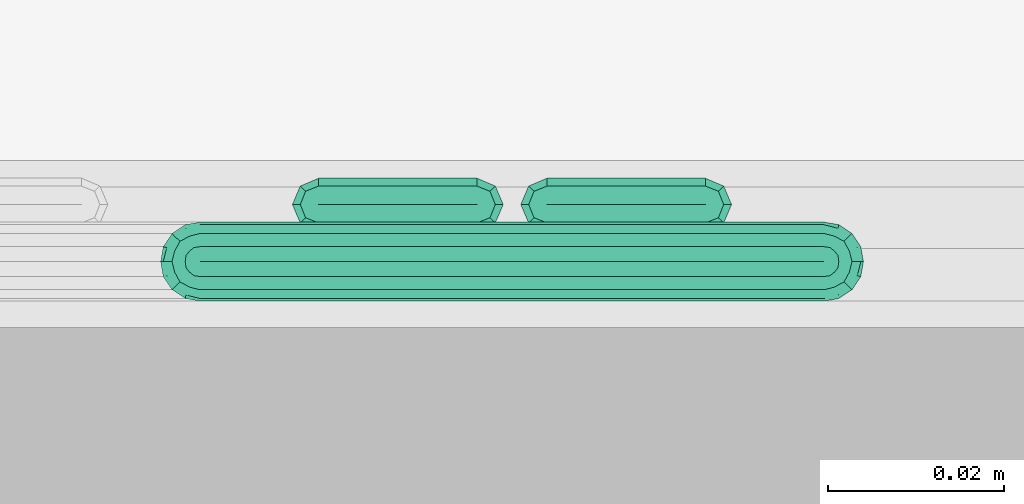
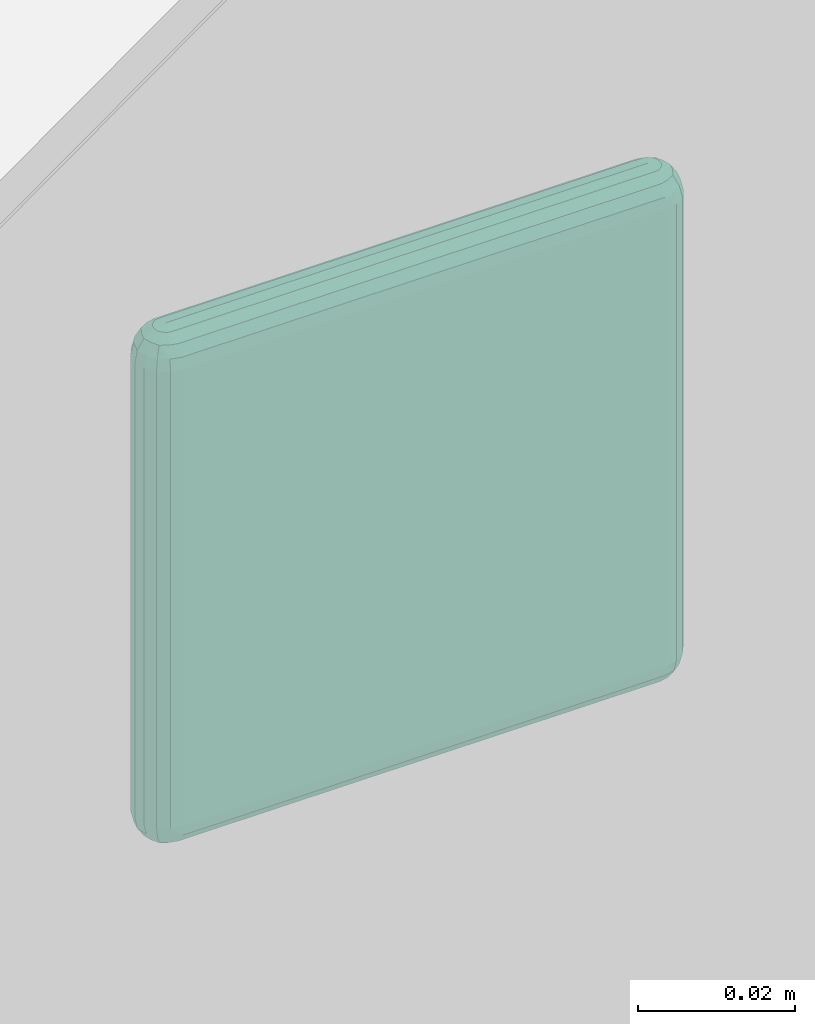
# One storey, part 6 of 11: 1 switching device.
"""IFC4 building model written with IfcOpenShell, lengths in millimetres."""

import ifcopenshell
import ifcopenshell.guid

model = None  # the IFC model being written
_history = None  # IfcOwnerHistory: only IFC2X3 demands one
_inside = {}  # id of a spatial element -> (the spatial element, [elements in it])
_under = {}  # id of a project, library or spatial element -> (it, [spatial elements below it])
_declared = {}  # id of a project -> (the project, [libraries it declares])
_typed = {}  # id of a type object -> (the type object, [elements of that type])
_made_of = {}  # id of a material, layer set ... -> (it, [elements and type objects made of it])


def new_model(schema):
    """Start an empty IFC model of exactly this schema.

    Asked for "IFC4X3", IfcOpenShell would pick the latest addendum, in which some entities
    have other attributes; the version numbers below select the first issue.
    IFC2X3 requires an IfcOwnerHistory on every rooted entity: one is made here for all.
    """
    global model, _history
    if schema == "IFC4X3":
        model = ifcopenshell.file(schema_version=(4, 3, 0, 0))
    else:
        model = ifcopenshell.file(schema=schema)
    _inside.clear()
    _under.clear()
    _declared.clear()
    _typed.clear()
    _made_of.clear()
    _history = None
    if model.schema == "IFC2X3":
        org = make("IfcOrganization", Name="unknown")
        user = make(
            "IfcPersonAndOrganization",
            ThePerson=make("IfcPerson", FamilyName="unknown"),
            TheOrganization=org,
        )
        app = make(
            "IfcApplication",
            ApplicationDeveloper=org,
            Version="unknown",
            ApplicationFullName="unknown",
            ApplicationIdentifier="unknown",
        )
        _history = make(
            "IfcOwnerHistory",
            OwningUser=user,
            OwningApplication=app,
            ChangeAction="ADDED",
            CreationDate=0,
        )
    return model


def make(cls, **values):
    """One entity of the class cls with the attributes given. An attribute that is None is left unset."""
    return model.create_entity(
        cls, **{name: value for name, value in values.items() if value is not None}
    )


def rooted(cls, **values):
    """An entity with a GlobalId (a new one), such as an element, a storey or a relation."""
    return make(cls, GlobalId=ifcopenshell.guid.new(), OwnerHistory=_history, **values)


def si_unit(unit_type, name, prefix=None):
    """IfcSIUnit, for example si_unit("LENGTHUNIT", "METRE", prefix="MILLI")."""
    return make("IfcSIUnit", UnitType=unit_type, Prefix=prefix, Name=name)


def assignment(units):
    """IfcUnitAssignment: the units of a project."""
    return None if units is None else make("IfcUnitAssignment", Units=units)


def point(xyz):
    """IfcCartesianPoint."""
    return None if xyz is None else make("IfcCartesianPoint", Coordinates=xyz)


def direction(xyz):
    """IfcDirection."""
    return None if xyz is None else make("IfcDirection", DirectionRatios=xyz)


def frame(location, z_axis=None, x_axis=None):
    """IfcAxis2Placement3D, a coordinate frame: its origin and axes. An axis left out is left unset."""
    return make(
        "IfcAxis2Placement3D",
        Location=point(location),
        Axis=direction(z_axis),
        RefDirection=direction(x_axis),
    )


def origin_with_axes():
    """The frame at (0, 0, 0) with the z axis (0, 0, 1) and the x axis (1, 0, 0) written out."""
    return frame((0.0, 0.0, 0.0), z_axis=(0.0, 0.0, 1.0), x_axis=(1.0, 0.0, 0.0))


def place(relative_to, where):
    """IfcLocalPlacement: puts the frame where relative to a parent placement (None: the world)."""
    return make(
        "IfcLocalPlacement", PlacementRelTo=relative_to, RelativePlacement=where
    )


def context(
    kind, dimensions, precision=None, world=None, true_north=None, identifier=None
):
    """IfcGeometricRepresentationContext, for example the 3D "Model" context."""
    return make(
        "IfcGeometricRepresentationContext",
        ContextIdentifier=identifier,
        ContextType=kind,
        CoordinateSpaceDimension=dimensions,
        Precision=precision,
        WorldCoordinateSystem=world,
        TrueNorth=true_north,
    )


def subcontext(parent, identifier, kind, view, scale=None):
    """IfcGeometricRepresentationSubContext, for example "Body" below "Model"."""
    return make(
        "IfcGeometricRepresentationSubContext",
        ContextIdentifier=identifier,
        ContextType=kind,
        ParentContext=parent,
        TargetScale=scale,
        TargetView=view,
    )


def project(units=None, contexts=None):
    """IfcProject with its units and contexts."""
    return rooted(
        "IfcProject",
        Name="project",
        RepresentationContexts=contexts,
        UnitsInContext=assignment(units),
    )


def spatial(cls, under=None, at=None, **own):
    """A site, building, storey or space (cls), placed at a placement, below another one or the project."""
    s = rooted(cls, ObjectPlacement=at, **own)
    if under is not None:
        _under.setdefault(under.id(), (under, []))[1].append(s)
    return s


def point_list(points):
    """IfcCartesianPointList2D or 3D."""
    cls = (
        "IfcCartesianPointList2D" if len(points[0]) == 2 else "IfcCartesianPointList3D"
    )
    return make(cls, CoordList=points)


def triangles(points, corners, closed=None, point_numbers=None):
    """IfcTriangulatedFaceSet: each triangle names its three corners, points numbered from 1."""
    return make(
        "IfcTriangulatedFaceSet",
        Coordinates=point_list(points),
        Closed=closed,
        CoordIndex=corners,
        PnIndex=point_numbers,
    )


def shape(context_of_items, identifier, shape_type, items):
    """IfcShapeRepresentation: the items that make up one representation, for example the "Body"."""
    return make(
        "IfcShapeRepresentation",
        ContextOfItems=context_of_items,
        RepresentationIdentifier=identifier,
        RepresentationType=shape_type,
        Items=items,
    )


def material(Name=None, Category=None):
    """IfcMaterial."""
    return make("IfcMaterial", Name=Name, Category=Category)


def made_of(thing, what):
    """Note that an element or type object is made of a material, layer set ...; save() writes the relation."""
    if what is not None:
        _made_of.setdefault(what.id(), (what, []))[1].append(thing)
    return thing


def element(
    cls,
    number,
    at=None,
    inside=None,
    cuts=None,
    type_object=None,
    material=None,
    context=None,
    identifier="Body",
    shape_type=None,
    held_by="IfcProductDefinitionShape",
    body=None,
    shapes=None,
    **own,
):
    """One element of the class cls, such as IfcWall. Its Tag is "e" and its number.

    at: its placement. inside: the storey or other place that contains it. cuts: it is an
    opening in that element (IfcRelVoidsElement). A single representation is given by context,
    identifier, shape_type and body (its items); several are given by shapes. held_by: the class
    of the entity that holds the representations. save() writes the other relations.
    """
    e = rooted(cls, Tag="e%d" % number, ObjectPlacement=at, **own)
    if body is not None:
        shapes = [shape(context, identifier, shape_type, body)]
    if shapes is not None:
        e.Representation = make(held_by, Representations=shapes)
    if inside is not None:
        _inside.setdefault(inside.id(), (inside, []))[1].append(e)
    if cuts is not None:
        rooted(
            "IfcRelVoidsElement", RelatingBuildingElement=cuts, RelatedOpeningElement=e
        )
    if type_object is not None:
        _typed.setdefault(type_object.id(), (type_object, []))[1].append(e)
    return made_of(e, material)


def aggregate(whole, parts):
    """IfcRelAggregates: a whole, such as a stair, and the parts it consists of."""
    return rooted("IfcRelAggregates", RelatingObject=whole, RelatedObjects=parts)


def save(model, path):
    """Write the relations noted so far, then the file.

    IfcRelAggregates (storeys below a building ...), IfcRelContainedInSpatialStructure (elements
    in a storey), IfcRelDefinesByType, IfcRelAssociatesMaterial and IfcRelDeclares: one each for
    every whole, place, type object, material and project.
    """
    for whole, parts in _under.values():
        aggregate(whole, parts)
    for where, things in _inside.values():
        rooted(
            "IfcRelContainedInSpatialStructure",
            RelatedElements=things,
            RelatingStructure=where,
        )
    for kind, things in _typed.values():
        rooted("IfcRelDefinesByType", RelatedObjects=things, RelatingType=kind)
    for what, things in _made_of.values():
        rooted("IfcRelAssociatesMaterial", RelatedObjects=things, RelatingMaterial=what)
    for by, libraries in _declared.values():
        rooted("IfcRelDeclares", RelatingContext=by, RelatedDefinitions=libraries)
    model.write(path)


model = new_model("IFC4")

# Units and contexts
model_context = context("Model", 3, precision=0.01, world=origin_with_axes())
body_context = subcontext(model_context, "Body", "Model", "MODEL_VIEW")
ifc_project = project(units=[si_unit("LENGTHUNIT", "METRE", prefix="MILLI"), si_unit("AREAUNIT", "SQUARE_METRE"), si_unit("VOLUMEUNIT", "CUBIC_METRE"), si_unit("PLANEANGLEUNIT", "RADIAN")], contexts=[model_context])

# Site, building, storey
site_placement = place(None, origin_with_axes())
site = spatial("IfcSite", under=ifc_project, at=site_placement, Name="Участок", CompositionType="ELEMENT")
building_placement = place(site_placement, origin_with_axes())
building = spatial("IfcBuilding", under=site, at=building_placement, Name="Жилой дом", CompositionType="ELEMENT")
storey_placement = place(building_placement, origin_with_axes())
storey = spatial("IfcBuildingStorey", under=building, at=storey_placement, Name="Квартира ±0,000", CompositionType="ELEMENT", Elevation=0.0)

# Switching device
ifc_material = material(Name="ЭУИ белые матовые (по кадру)")
switching_device_placement = place(storey_placement, frame((2911.0, 3.0, 900.0)))
element("IfcSwitchingDevice", 1, at=switching_device_placement, inside=storey, material=ifc_material, Name="Выключатель двухклавишный +900", PredefinedType="TOGGLESWITCH", context=body_context, shape_type="Tessellation", body=[
    triangles([(4.5, 4.5, 0.0), (4.5, 4.5, 0.0), (4.5, 4.5, 0.0), (4.5, 4.5, 0.0), (4.5, 4.5, 0.0), (75.5, 4.5, 0.0), (75.5, 4.5, 0.0), (75.5, 4.5, 0.0), (75.5, 4.5, 0.0), (75.5, 4.5, 0.0), (75.5, 4.5, 0.0), (75.5, 4.5, 0.0), (75.5, 4.5, 0.0), (75.5, 4.5, 0.0), (75.5, 4.5, 0.0), (4.5, 4.5, 0.0), (4.5, 4.5, 0.0), (4.5, 4.5, 0.0), (4.5, 4.5, 0.0), (4.5, 4.5, 0.0), (2.8, 4.5, 0.3), (2.9, 5.2, 0.3), (3.3, 5.7, 0.3), (3.8, 6.1, 0.3), (4.5, 6.2, 0.3), (75.5, 6.2, 0.3), (76.2, 6.1, 0.3), (76.7, 5.7, 0.3), (77.1, 5.2, 0.3), (77.2, 4.5, 0.3), (77.2, 4.5, 0.3), (77.1, 3.8, 0.3), (76.7, 3.3, 0.3), (76.2, 2.9, 0.3), (75.5, 2.8, 0.3), (4.5, 2.8, 0.3), (3.8, 2.9, 0.3), (3.3, 3.3, 0.3), (2.9, 3.8, 0.3), (2.8, 4.5, 0.3), (1.3, 4.5, 1.3), (1.6, 5.7, 1.3), (2.2, 6.8, 1.3), (3.3, 7.4, 1.3), (4.5, 7.7, 1.3), (75.5, 7.7, 1.3), (76.7, 7.4, 1.3), (77.8, 6.8, 1.3), (78.4, 5.7, 1.3), (78.7, 4.5, 1.3), (78.7, 4.5, 1.3), (78.4, 3.3, 1.3), (77.8, 2.2, 1.3), (76.7, 1.6, 1.3), (75.5, 1.3, 1.3), (4.5, 1.3, 1.3), (3.3, 1.6, 1.3), (2.2, 2.2, 1.3), (1.6, 3.3, 1.3), (1.3, 4.5, 1.3), (0.3, 4.5, 2.8), (0.7, 6.1, 2.8), (1.6, 7.4, 2.8), (2.9, 8.3, 2.8), (4.5, 8.7, 2.8), (75.5, 8.7, 2.8), (77.1, 8.3, 2.8), (78.4, 7.4, 2.8), (79.3, 6.1, 2.8), (79.7, 4.5, 2.8), (79.7, 4.5, 2.8), (79.3, 2.9, 2.8), (78.4, 1.6, 2.8), (77.1, 0.7, 2.8), (75.5, 0.3, 2.8), (4.5, 0.3, 2.8), (2.9, 0.7, 2.8), (1.6, 1.6, 2.8), (0.7, 2.9, 2.8), (0.3, 4.5, 2.8), (0.0, 4.5, 4.5), (0.3, 6.2, 4.5), (1.3, 7.7, 4.5), (2.8, 8.7, 4.5), (4.5, 9.0, 4.5), (75.5, 9.0, 4.5), (77.2, 8.7, 4.5), (78.7, 7.7, 4.5), (79.7, 6.2, 4.5), (80.0, 4.5, 4.5), (80.0, 4.5, 4.5), (79.7, 2.8, 4.5), (78.7, 1.3, 4.5), (77.2, 0.3, 4.5), (75.5, 0.0, 4.5), (4.5, 0.0, 4.5), (2.8, 0.3, 4.5), (1.3, 1.3, 4.5), (0.3, 2.8, 4.5), (0.0, 4.5, 4.5), (0.0, 4.5, 75.5), (0.3, 6.2, 75.5), (1.3, 7.7, 75.5), (2.8, 8.7, 75.5), (4.5, 9.0, 75.5), (75.5, 9.0, 75.5), (77.2, 8.7, 75.5), (78.7, 7.7, 75.5), (79.7, 6.2, 75.5), (80.0, 4.5, 75.5), (80.0, 4.5, 75.5), (79.7, 2.8, 75.5), (78.7, 1.3, 75.5), (77.2, 0.3, 75.5), (75.5, 0.0, 75.5), (4.5, 0.0, 75.5), (2.8, 0.3, 75.5), (1.3, 1.3, 75.5), (0.3, 2.8, 75.5), (0.0, 4.5, 75.5), (0.3, 4.5, 77.2), (0.7, 6.1, 77.2), (1.6, 7.4, 77.2), (2.9, 8.3, 77.2), (4.5, 8.7, 77.2), (75.5, 8.7, 77.2), (77.1, 8.3, 77.2), (78.4, 7.4, 77.2), (79.3, 6.1, 77.2), (79.7, 4.5, 77.2), (79.7, 4.5, 77.2), (79.3, 2.9, 77.2), (78.4, 1.6, 77.2), (77.1, 0.7, 77.2), (75.5, 0.3, 77.2), (4.5, 0.3, 77.2), (2.9, 0.7, 77.2), (1.6, 1.6, 77.2), (0.7, 2.9, 77.2), (0.3, 4.5, 77.2), (1.3, 4.5, 78.7), (1.6, 5.7, 78.7), (2.2, 6.8, 78.7), (3.3, 7.4, 78.7), (4.5, 7.7, 78.7), (75.5, 7.7, 78.7), (76.7, 7.4, 78.7), (77.8, 6.8, 78.7), (78.4, 5.7, 78.7), (78.7, 4.5, 78.7), (78.7, 4.5, 78.7), (78.4, 3.3, 78.7), (77.8, 2.2, 78.7), (76.7, 1.6, 78.7), (75.5, 1.3, 78.7), (4.5, 1.3, 78.7), (3.3, 1.6, 78.7), (2.2, 2.2, 78.7), (1.6, 3.3, 78.7), (1.3, 4.5, 78.7), (2.8, 4.5, 79.7), (2.9, 5.2, 79.7), (3.3, 5.7, 79.7), (3.8, 6.1, 79.7), (4.5, 6.2, 79.7), (75.5, 6.2, 79.7), (76.2, 6.1, 79.7), (76.7, 5.7, 79.7), (77.1, 5.2, 79.7), (77.2, 4.5, 79.7), (77.2, 4.5, 79.7), (77.1, 3.8, 79.7), (76.7, 3.3, 79.7), (76.2, 2.9, 79.7), (75.5, 2.8, 79.7), (4.5, 2.8, 79.7), (3.8, 2.9, 79.7), (3.3, 3.3, 79.7), (2.9, 3.8, 79.7), (2.8, 4.5, 79.7), (4.5, 4.5, 80.0), (4.5, 4.5, 80.0), (4.5, 4.5, 80.0), (4.5, 4.5, 80.0), (4.5, 4.5, 80.0), (75.5, 4.5, 80.0), (75.5, 4.5, 80.0), (75.5, 4.5, 80.0), (75.5, 4.5, 80.0), (75.5, 4.5, 80.0), (75.5, 4.5, 80.0), (75.5, 4.5, 80.0), (75.5, 4.5, 80.0), (75.5, 4.5, 80.0), (75.5, 4.5, 80.0), (4.5, 4.5, 80.0), (4.5, 4.5, 80.0), (4.5, 4.5, 80.0), (4.5, 4.5, 80.0), (4.5, 4.5, 80.0), (44.0, 11.0, 14.0), (44.0, 11.0, 14.0), (44.0, 11.0, 14.0), (62.0, 11.0, 14.0), (62.0, 11.0, 14.0), (62.0, 11.0, 14.0), (62.0, 11.0, 14.0), (62.0, 11.0, 14.0), (62.0, 11.0, 14.0), (44.0, 11.0, 14.0), (44.0, 11.0, 14.0), (44.0, 11.0, 14.0), (41.9, 11.0, 14.9), (42.5, 12.5, 14.9), (44.0, 13.1, 14.9), (62.0, 13.1, 14.9), (63.5, 12.5, 14.9), (64.1, 11.0, 14.9), (64.1, 11.0, 14.9), (63.5, 9.5, 14.9), (62.0, 8.9, 14.9), (44.0, 8.9, 14.9), (42.5, 9.5, 14.9), (41.9, 11.0, 14.9), (41.0, 11.0, 17.0), (41.9, 13.1, 17.0), (44.0, 14.0, 17.0), (62.0, 14.0, 17.0), (64.1, 13.1, 17.0), (65.0, 11.0, 17.0), (65.0, 11.0, 17.0), (64.1, 8.9, 17.0), (62.0, 8.0, 17.0), (44.0, 8.0, 17.0), (41.9, 8.9, 17.0), (41.0, 11.0, 17.0), (41.0, 11.0, 63.0), (41.9, 13.1, 63.0), (44.0, 14.0, 63.0), (62.0, 14.0, 63.0), (64.1, 13.1, 63.0), (65.0, 11.0, 63.0), (65.0, 11.0, 63.0), (64.1, 8.9, 63.0), (62.0, 8.0, 63.0), (44.0, 8.0, 63.0), (41.9, 8.9, 63.0), (41.0, 11.0, 63.0), (41.9, 11.0, 65.1), (42.5, 12.5, 65.1), (44.0, 13.1, 65.1), (62.0, 13.1, 65.1), (63.5, 12.5, 65.1), (64.1, 11.0, 65.1), (64.1, 11.0, 65.1), (63.5, 9.5, 65.1), (62.0, 8.9, 65.1), (44.0, 8.9, 65.1), (42.5, 9.5, 65.1), (41.9, 11.0, 65.1), (44.0, 11.0, 66.0), (44.0, 11.0, 66.0), (44.0, 11.0, 66.0), (62.0, 11.0, 66.0), (62.0, 11.0, 66.0), (62.0, 11.0, 66.0), (62.0, 11.0, 66.0), (62.0, 11.0, 66.0), (62.0, 11.0, 66.0), (44.0, 11.0, 66.0), (44.0, 11.0, 66.0), (44.0, 11.0, 66.0), (18.0, 11.0, 14.0), (18.0, 11.0, 14.0), (18.0, 11.0, 14.0), (36.0, 11.0, 14.0), (36.0, 11.0, 14.0), (36.0, 11.0, 14.0), (36.0, 11.0, 14.0), (36.0, 11.0, 14.0), (36.0, 11.0, 14.0), (18.0, 11.0, 14.0), (18.0, 11.0, 14.0), (18.0, 11.0, 14.0), (15.9, 11.0, 14.9), (16.5, 12.5, 14.9), (18.0, 13.1, 14.9), (36.0, 13.1, 14.9), (37.5, 12.5, 14.9), (38.1, 11.0, 14.9), (38.1, 11.0, 14.9), (37.5, 9.5, 14.9), (36.0, 8.9, 14.9), (18.0, 8.9, 14.9), (16.5, 9.5, 14.9), (15.9, 11.0, 14.9), (15.0, 11.0, 17.0), (15.9, 13.1, 17.0), (18.0, 14.0, 17.0), (36.0, 14.0, 17.0), (38.1, 13.1, 17.0), (39.0, 11.0, 17.0), (39.0, 11.0, 17.0), (38.1, 8.9, 17.0), (36.0, 8.0, 17.0), (18.0, 8.0, 17.0), (15.9, 8.9, 17.0), (15.0, 11.0, 17.0), (15.0, 11.0, 63.0), (15.9, 13.1, 63.0), (18.0, 14.0, 63.0), (36.0, 14.0, 63.0), (38.1, 13.1, 63.0), (39.0, 11.0, 63.0), (39.0, 11.0, 63.0), (38.1, 8.9, 63.0), (36.0, 8.0, 63.0), (18.0, 8.0, 63.0), (15.9, 8.9, 63.0), (15.0, 11.0, 63.0), (15.9, 11.0, 65.1), (16.5, 12.5, 65.1), (18.0, 13.1, 65.1), (36.0, 13.1, 65.1), (37.5, 12.5, 65.1), (38.1, 11.0, 65.1), (38.1, 11.0, 65.1), (37.5, 9.5, 65.1), (36.0, 8.9, 65.1), (18.0, 8.9, 65.1), (16.5, 9.5, 65.1), (15.9, 11.0, 65.1), (18.0, 11.0, 66.0), (18.0, 11.0, 66.0), (18.0, 11.0, 66.0), (36.0, 11.0, 66.0), (36.0, 11.0, 66.0), (36.0, 11.0, 66.0), (36.0, 11.0, 66.0), (36.0, 11.0, 66.0), (36.0, 11.0, 66.0), (18.0, 11.0, 66.0), (18.0, 11.0, 66.0), (18.0, 11.0, 66.0)], [[1, 2, 22], [1, 22, 21], [2, 3, 23], [2, 23, 22], [3, 4, 24], [3, 24, 23], [4, 5, 25], [4, 25, 24], [5, 6, 26], [5, 26, 25], [6, 7, 27], [6, 27, 26], [7, 8, 28], [7, 28, 27], [8, 9, 29], [8, 29, 28], [9, 10, 30], [9, 30, 29], [10, 11, 31], [10, 31, 30], [11, 12, 32], [11, 32, 31], [12, 13, 33], [12, 33, 32], [13, 14, 34], [13, 34, 33], [14, 15, 35], [14, 35, 34], [15, 16, 36], [15, 36, 35], [16, 17, 37], [16, 37, 36], [17, 18, 38], [17, 38, 37], [18, 19, 39], [18, 39, 38], [19, 20, 40], [19, 40, 39], [20, 1, 21], [20, 21, 40], [21, 22, 42], [21, 42, 41], [22, 23, 43], [22, 43, 42], [23, 24, 44], [23, 44, 43], [24, 25, 45], [24, 45, 44], [25, 26, 46], [25, 46, 45], [26, 27, 47], [26, 47, 46], [27, 28, 48], [27, 48, 47], [28, 29, 49], [28, 49, 48], [29, 30, 50], [29, 50, 49], [30, 31, 51], [30, 51, 50], [31, 32, 52], [31, 52, 51], [32, 33, 53], [32, 53, 52], [33, 34, 54], [33, 54, 53], [34, 35, 55], [34, 55, 54], [35, 36, 56], [35, 56, 55], [36, 37, 57], [36, 57, 56], [37, 38, 58], [37, 58, 57], [38, 39, 59], [38, 59, 58], [39, 40, 60], [39, 60, 59], [40, 21, 41], [40, 41, 60], [41, 42, 62], [41, 62, 61], [42, 43, 63], [42, 63, 62], [43, 44, 64], [43, 64, 63], [44, 45, 65], [44, 65, 64], [45, 46, 66], [45, 66, 65], [46, 47, 67], [46, 67, 66], [47, 48, 68], [47, 68, 67], [48, 49, 69], [48, 69, 68], [49, 50, 70], [49, 70, 69], [50, 51, 71], [50, 71, 70], [51, 52, 72], [51, 72, 71], [52, 53, 73], [52, 73, 72], [53, 54, 74], [53, 74, 73], [54, 55, 75], [54, 75, 74], [55, 56, 76], [55, 76, 75], [56, 57, 77], [56, 77, 76], [57, 58, 78], [57, 78, 77], [58, 59, 79], [58, 79, 78], [59, 60, 80], [59, 80, 79], [60, 41, 61], [60, 61, 80], [61, 62, 82], [61, 82, 81], [62, 63, 83], [62, 83, 82], [63, 64, 84], [63, 84, 83], [64, 65, 85], [64, 85, 84], [65, 66, 86], [65, 86, 85], [66, 67, 87], [66, 87, 86], [67, 68, 88], [67, 88, 87], [68, 69, 89], [68, 89, 88], [69, 70, 90], [69, 90, 89], [70, 71, 91], [70, 91, 90], [71, 72, 92], [71, 92, 91], [72, 73, 93], [72, 93, 92], [73, 74, 94], [73, 94, 93], [74, 75, 95], [74, 95, 94], [75, 76, 96], [75, 96, 95], [76, 77, 97], [76, 97, 96], [77, 78, 98], [77, 98, 97], [78, 79, 99], [78, 99, 98], [79, 80, 100], [79, 100, 99], [80, 61, 81], [80, 81, 100], [81, 82, 102], [81, 102, 101], [82, 83, 103], [82, 103, 102], [83, 84, 104], [83, 104, 103], [84, 85, 105], [84, 105, 104], [85, 86, 106], [85, 106, 105], [86, 87, 107], [86, 107, 106], [87, 88, 108], [87, 108, 107], [88, 89, 109], [88, 109, 108], [89, 90, 110], [89, 110, 109], [90, 91, 111], [90, 111, 110], [91, 92, 112], [91, 112, 111], [92, 93, 113], [92, 113, 112], [93, 94, 114], [93, 114, 113], [94, 95, 115], [94, 115, 114], [95, 96, 116], [95, 116, 115], [96, 97, 117], [96, 117, 116], [97, 98, 118], [97, 118, 117], [98, 99, 119], [98, 119, 118], [99, 100, 120], [99, 120, 119], [100, 81, 101], [100, 101, 120], [101, 102, 122], [101, 122, 121], [102, 103, 123], [102, 123, 122], [103, 104, 124], [103, 124, 123], [104, 105, 125], [104, 125, 124], [105, 106, 126], [105, 126, 125], [106, 107, 127], [106, 127, 126], [107, 108, 128], [107, 128, 127], [108, 109, 129], [108, 129, 128], [109, 110, 130], [109, 130, 129], [110, 111, 131], [110, 131, 130], [111, 112, 132], [111, 132, 131], [112, 113, 133], [112, 133, 132], [113, 114, 134], [113, 134, 133], [114, 115, 135], [114, 135, 134], [115, 116, 136], [115, 136, 135], [116, 117, 137], [116, 137, 136], [117, 118, 138], [117, 138, 137], [118, 119, 139], [118, 139, 138], [119, 120, 140], [119, 140, 139], [120, 101, 121], [120, 121, 140], [121, 122, 142], [121, 142, 141], [122, 123, 143], [122, 143, 142], [123, 124, 144], [123, 144, 143], [124, 125, 145], [124, 145, 144], [125, 126, 146], [125, 146, 145], [126, 127, 147], [126, 147, 146], [127, 128, 148], [127, 148, 147], [128, 129, 149], [128, 149, 148], [129, 130, 150], [129, 150, 149], [130, 131, 151], [130, 151, 150], [131, 132, 152], [131, 152, 151], [132, 133, 153], [132, 153, 152], [133, 134, 154], [133, 154, 153], [134, 135, 155], [134, 155, 154], [135, 136, 156], [135, 156, 155], [136, 137, 157], [136, 157, 156], [137, 138, 158], [137, 158, 157], [138, 139, 159], [138, 159, 158], [139, 140, 160], [139, 160, 159], [140, 121, 141], [140, 141, 160], [141, 142, 162], [141, 162, 161], [142, 143, 163], [142, 163, 162], [143, 144, 164], [143, 164, 163], [144, 145, 165], [144, 165, 164], [145, 146, 166], [145, 166, 165], [146, 147, 167], [146, 167, 166], [147, 148, 168], [147, 168, 167], [148, 149, 169], [148, 169, 168], [149, 150, 170], [149, 170, 169], [150, 151, 171], [150, 171, 170], [151, 152, 172], [151, 172, 171], [152, 153, 173], [152, 173, 172], [153, 154, 174], [153, 174, 173], [154, 155, 175], [154, 175, 174], [155, 156, 176], [155, 176, 175], [156, 157, 177], [156, 177, 176], [157, 158, 178], [157, 178, 177], [158, 159, 179], [158, 179, 178], [159, 160, 180], [159, 180, 179], [160, 141, 161], [160, 161, 180], [161, 162, 182], [161, 182, 181], [162, 163, 183], [162, 183, 182], [163, 164, 184], [163, 184, 183], [164, 165, 185], [164, 185, 184], [165, 166, 186], [165, 186, 185], [166, 167, 187], [166, 187, 186], [167, 168, 188], [167, 188, 187], [168, 169, 189], [168, 189, 188], [169, 170, 190], [169, 190, 189], [170, 171, 191], [170, 191, 190], [171, 172, 192], [171, 192, 191], [172, 173, 193], [172, 193, 192], [173, 174, 194], [173, 194, 193], [174, 175, 195], [174, 195, 194], [175, 176, 196], [175, 196, 195], [176, 177, 197], [176, 197, 196], [177, 178, 198], [177, 198, 197], [178, 179, 199], [178, 199, 198], [179, 180, 200], [179, 200, 199], [180, 161, 181], [180, 181, 200], [201, 202, 214], [201, 214, 213], [202, 203, 215], [202, 215, 214], [203, 204, 216], [203, 216, 215], [204, 205, 217], [204, 217, 216], [205, 206, 218], [205, 218, 217], [206, 207, 219], [206, 219, 218], [207, 208, 220], [207, 220, 219], [208, 209, 221], [208, 221, 220], [209, 210, 222], [209, 222, 221], [210, 211, 223], [210, 223, 222], [211, 212, 224], [211, 224, 223], [212, 201, 213], [212, 213, 224], [213, 214, 226], [213, 226, 225], [214, 215, 227], [214, 227, 226], [215, 216, 228], [215, 228, 227], [216, 217, 229], [216, 229, 228], [217, 218, 230], [217, 230, 229], [218, 219, 231], [218, 231, 230], [219, 220, 232], [219, 232, 231], [220, 221, 233], [220, 233, 232], [221, 222, 234], [221, 234, 233], [222, 223, 235], [222, 235, 234], [223, 224, 236], [223, 236, 235], [224, 213, 225], [224, 225, 236], [225, 226, 238], [225, 238, 237], [226, 227, 239], [226, 239, 238], [227, 228, 240], [227, 240, 239], [228, 229, 241], [228, 241, 240], [229, 230, 242], [229, 242, 241], [230, 231, 243], [230, 243, 242], [231, 232, 244], [231, 244, 243], [232, 233, 245], [232, 245, 244], [233, 234, 246], [233, 246, 245], [234, 235, 247], [234, 247, 246], [235, 236, 248], [235, 248, 247], [236, 225, 237], [236, 237, 248], [237, 238, 250], [237, 250, 249], [238, 239, 251], [238, 251, 250], [239, 240, 252], [239, 252, 251], [240, 241, 253], [240, 253, 252], [241, 242, 254], [241, 254, 253], [242, 243, 255], [242, 255, 254], [243, 244, 256], [243, 256, 255], [244, 245, 257], [244, 257, 256], [245, 246, 258], [245, 258, 257], [246, 247, 259], [246, 259, 258], [247, 248, 260], [247, 260, 259], [248, 237, 249], [248, 249, 260], [249, 250, 262], [249, 262, 261], [250, 251, 263], [250, 263, 262], [251, 252, 264], [251, 264, 263], [252, 253, 265], [252, 265, 264], [253, 254, 266], [253, 266, 265], [254, 255, 267], [254, 267, 266], [255, 256, 268], [255, 268, 267], [256, 257, 269], [256, 269, 268], [257, 258, 270], [257, 270, 269], [258, 259, 271], [258, 271, 270], [259, 260, 272], [259, 272, 271], [260, 249, 261], [260, 261, 272], [273, 274, 286], [273, 286, 285], [274, 275, 287], [274, 287, 286], [275, 276, 288], [275, 288, 287], [276, 277, 289], [276, 289, 288], [277, 278, 290], [277, 290, 289], [278, 279, 291], [278, 291, 290], [279, 280, 292], [279, 292, 291], [280, 281, 293], [280, 293, 292], [281, 282, 294], [281, 294, 293], [282, 283, 295], [282, 295, 294], [283, 284, 296], [283, 296, 295], [284, 273, 285], [284, 285, 296], [285, 286, 298], [285, 298, 297], [286, 287, 299], [286, 299, 298], [287, 288, 300], [287, 300, 299], [288, 289, 301], [288, 301, 300], [289, 290, 302], [289, 302, 301], [290, 291, 303], [290, 303, 302], [291, 292, 304], [291, 304, 303], [292, 293, 305], [292, 305, 304], [293, 294, 306], [293, 306, 305], [294, 295, 307], [294, 307, 306], [295, 296, 308], [295, 308, 307], [296, 285, 297], [296, 297, 308], [297, 298, 310], [297, 310, 309], [298, 299, 311], [298, 311, 310], [299, 300, 312], [299, 312, 311], [300, 301, 313], [300, 313, 312], [301, 302, 314], [301, 314, 313], [302, 303, 315], [302, 315, 314], [303, 304, 316], [303, 316, 315], [304, 305, 317], [304, 317, 316], [305, 306, 318], [305, 318, 317], [306, 307, 319], [306, 319, 318], [307, 308, 320], [307, 320, 319], [308, 297, 309], [308, 309, 320], [309, 310, 322], [309, 322, 321], [310, 311, 323], [310, 323, 322], [311, 312, 324], [311, 324, 323], [312, 313, 325], [312, 325, 324], [313, 314, 326], [313, 326, 325], [314, 315, 327], [314, 327, 326], [315, 316, 328], [315, 328, 327], [316, 317, 329], [316, 329, 328], [317, 318, 330], [317, 330, 329], [318, 319, 331], [318, 331, 330], [319, 320, 332], [319, 332, 331], [320, 309, 321], [320, 321, 332], [321, 322, 334], [321, 334, 333], [322, 323, 335], [322, 335, 334], [323, 324, 336], [323, 336, 335], [324, 325, 337], [324, 337, 336], [325, 326, 338], [325, 338, 337], [326, 327, 339], [326, 339, 338], [327, 328, 340], [327, 340, 339], [328, 329, 341], [328, 341, 340], [329, 330, 342], [329, 342, 341], [330, 331, 343], [330, 343, 342], [331, 332, 344], [331, 344, 343], [332, 321, 333], [332, 333, 344]]),
])

save(model, "model.ifc")
